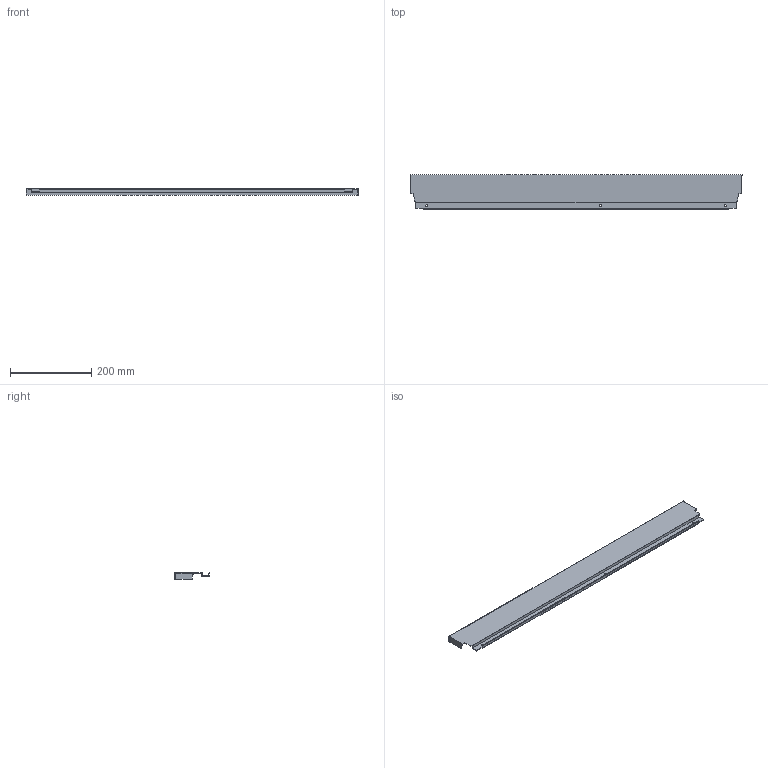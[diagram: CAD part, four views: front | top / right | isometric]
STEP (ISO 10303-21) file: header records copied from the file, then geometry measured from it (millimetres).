
FILE_DESCRIPTION (( 'STEP AP214' ), '1' );
FILE_NAME ('_DWD_XP Stahlrückwand_H86_KAB900_S18.step', '2010-07-08T12:10:25', ( 'grass' ), ( '' ), 'SwSTEP 2.0', 'SolidWorks 2010', '' );
FILE_SCHEMA (( 'AUTOMOTIVE_DESIGN' ));
Length unit declared in the file: millimetre
Products named in the file (1): _DWD_XP Stahlrückwand_H86_KAB900_S18
Bounding box: 815 x 85.79 x 16 mm (x, y, z)
Volume: 87337.6 mm3; surface area: 189599 mm2
Topology: 1 solids, 1 shells, 50 faces, 144 edges, 96 vertices
Faces by surface type: plane 44, cylinder 6
Entity records: 1666 total; most frequent: CARTESIAN_POINT 291, ORIENTED_EDGE 288, DIRECTION 258, EDGE_CURVE 144, VECTOR 132, LINE 132, VERTEX_POINT 96, AXIS2_PLACEMENT_3D 63
